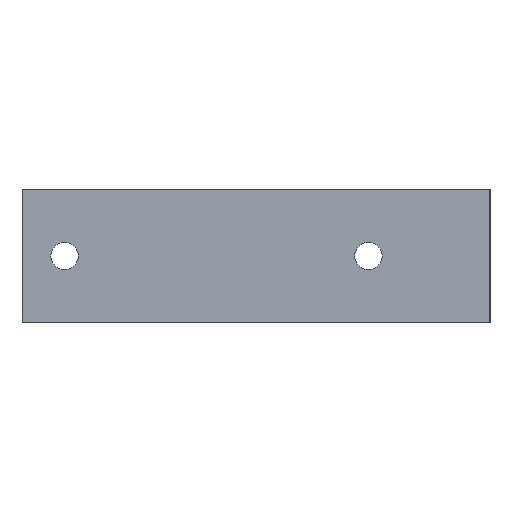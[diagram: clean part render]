
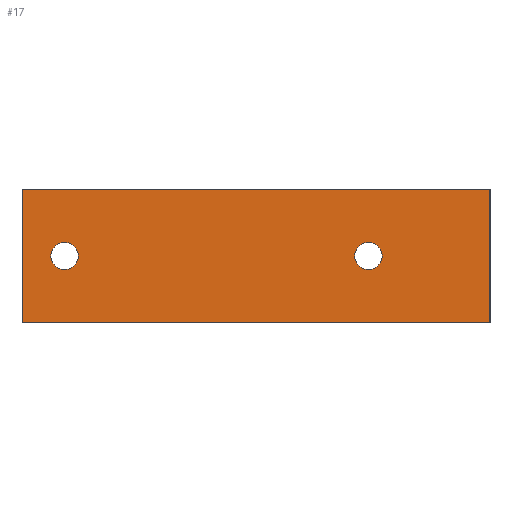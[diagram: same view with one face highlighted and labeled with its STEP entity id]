
A CAD part, left-side view. The second image highlights one B-rep face of the part: STEP entity #17.
In plain terms, the highlighted planar face has unit normal (-1, 0, 0).
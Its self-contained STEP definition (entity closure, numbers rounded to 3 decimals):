
#17 = ADVANCED_FACE('',(#18,#137,#172),#32,.F.);
#18 = FACE_BOUND('',#19,.F.);
#19 = EDGE_LOOP('',(#20,#55,#83,#111));
#20 = ORIENTED_EDGE('',*,*,#21,.F.);
#21 = EDGE_CURVE('',#22,#24,#26,.T.);
#22 = VERTEX_POINT('',#23);
#23 = CARTESIAN_POINT('',(-45.,-45.,-55.));
#24 = VERTEX_POINT('',#25);
#25 = CARTESIAN_POINT('',(-45.,-45.,-33.));
#26 = SURFACE_CURVE('',#27,(#31,#43),.PCURVE_S1.);
#27 = LINE('',#28,#29);
#28 = CARTESIAN_POINT('',(-45.,-45.,-55.));
#29 = VECTOR('',#30,1.);
#30 = DIRECTION('',(0.,0.,1.));
#31 = PCURVE('',#32,#37);
#32 = PLANE('',#33);
#33 = AXIS2_PLACEMENT_3D('',#34,#35,#36);
#34 = CARTESIAN_POINT('',(-45.,-45.,-55.));
#35 = DIRECTION('',(1.,0.,0.));
#36 = DIRECTION('',(0.,0.,1.));
#37 = DEFINITIONAL_REPRESENTATION('',(#38),#42);
#38 = LINE('',#39,#40);
#39 = CARTESIAN_POINT('',(0.,0.));
#40 = VECTOR('',#41,1.);
#41 = DIRECTION('',(1.,0.));
#42 = ( GEOMETRIC_REPRESENTATION_CONTEXT(2) 
PARAMETRIC_REPRESENTATION_CONTEXT() REPRESENTATION_CONTEXT('2D SPACE',''
  ) );
#43 = PCURVE('',#44,#49);
#44 = PLANE('',#45);
#45 = AXIS2_PLACEMENT_3D('',#46,#47,#48);
#46 = CARTESIAN_POINT('',(-45.,-45.,-55.));
#47 = DIRECTION('',(0.,1.,0.));
#48 = DIRECTION('',(0.,0.,1.));
#49 = DEFINITIONAL_REPRESENTATION('',(#50),#54);
#50 = LINE('',#51,#52);
#51 = CARTESIAN_POINT('',(0.,0.));
#52 = VECTOR('',#53,1.);
#53 = DIRECTION('',(1.,0.));
#54 = ( GEOMETRIC_REPRESENTATION_CONTEXT(2) 
PARAMETRIC_REPRESENTATION_CONTEXT() REPRESENTATION_CONTEXT('2D SPACE',''
  ) );
#55 = ORIENTED_EDGE('',*,*,#56,.T.);
#56 = EDGE_CURVE('',#22,#57,#59,.T.);
#57 = VERTEX_POINT('',#58);
#58 = CARTESIAN_POINT('',(-45.,32.,-55.));
#59 = SURFACE_CURVE('',#60,(#64,#71),.PCURVE_S1.);
#60 = LINE('',#61,#62);
#61 = CARTESIAN_POINT('',(-45.,-45.,-55.));
#62 = VECTOR('',#63,1.);
#63 = DIRECTION('',(0.,1.,0.));
#64 = PCURVE('',#32,#65);
#65 = DEFINITIONAL_REPRESENTATION('',(#66),#70);
#66 = LINE('',#67,#68);
#67 = CARTESIAN_POINT('',(0.,0.));
#68 = VECTOR('',#69,1.);
#69 = DIRECTION('',(0.,-1.));
#70 = ( GEOMETRIC_REPRESENTATION_CONTEXT(2) 
PARAMETRIC_REPRESENTATION_CONTEXT() REPRESENTATION_CONTEXT('2D SPACE',''
  ) );
#71 = PCURVE('',#72,#77);
#72 = PLANE('',#73);
#73 = AXIS2_PLACEMENT_3D('',#74,#75,#76);
#74 = CARTESIAN_POINT('',(-45.,-45.,-55.));
#75 = DIRECTION('',(0.,0.,1.));
#76 = DIRECTION('',(1.,0.,0.));
#77 = DEFINITIONAL_REPRESENTATION('',(#78),#82);
#78 = LINE('',#79,#80);
#79 = CARTESIAN_POINT('',(0.,0.));
#80 = VECTOR('',#81,1.);
#81 = DIRECTION('',(0.,1.));
#82 = ( GEOMETRIC_REPRESENTATION_CONTEXT(2) 
PARAMETRIC_REPRESENTATION_CONTEXT() REPRESENTATION_CONTEXT('2D SPACE',''
  ) );
#83 = ORIENTED_EDGE('',*,*,#84,.T.);
#84 = EDGE_CURVE('',#57,#85,#87,.T.);
#85 = VERTEX_POINT('',#86);
#86 = CARTESIAN_POINT('',(-45.,32.,-33.));
#87 = SURFACE_CURVE('',#88,(#92,#99),.PCURVE_S1.);
#88 = LINE('',#89,#90);
#89 = CARTESIAN_POINT('',(-45.,32.,-55.));
#90 = VECTOR('',#91,1.);
#91 = DIRECTION('',(0.,0.,1.));
#92 = PCURVE('',#32,#93);
#93 = DEFINITIONAL_REPRESENTATION('',(#94),#98);
#94 = LINE('',#95,#96);
#95 = CARTESIAN_POINT('',(0.,-77.));
#96 = VECTOR('',#97,1.);
#97 = DIRECTION('',(1.,0.));
#98 = ( GEOMETRIC_REPRESENTATION_CONTEXT(2) 
PARAMETRIC_REPRESENTATION_CONTEXT() REPRESENTATION_CONTEXT('2D SPACE',''
  ) );
#99 = PCURVE('',#100,#105);
#100 = PLANE('',#101);
#101 = AXIS2_PLACEMENT_3D('',#102,#103,#104);
#102 = CARTESIAN_POINT('',(-45.,32.,-55.));
#103 = DIRECTION('',(0.,1.,0.));
#104 = DIRECTION('',(0.,0.,1.));
#105 = DEFINITIONAL_REPRESENTATION('',(#106),#110);
#106 = LINE('',#107,#108);
#107 = CARTESIAN_POINT('',(0.,0.));
#108 = VECTOR('',#109,1.);
#109 = DIRECTION('',(1.,0.));
#110 = ( GEOMETRIC_REPRESENTATION_CONTEXT(2) 
PARAMETRIC_REPRESENTATION_CONTEXT() REPRESENTATION_CONTEXT('2D SPACE',''
  ) );
#111 = ORIENTED_EDGE('',*,*,#112,.F.);
#112 = EDGE_CURVE('',#24,#85,#113,.T.);
#113 = SURFACE_CURVE('',#114,(#118,#125),.PCURVE_S1.);
#114 = LINE('',#115,#116);
#115 = CARTESIAN_POINT('',(-45.,-45.,-33.));
#116 = VECTOR('',#117,1.);
#117 = DIRECTION('',(0.,1.,0.));
#118 = PCURVE('',#32,#119);
#119 = DEFINITIONAL_REPRESENTATION('',(#120),#124);
#120 = LINE('',#121,#122);
#121 = CARTESIAN_POINT('',(22.,0.));
#122 = VECTOR('',#123,1.);
#123 = DIRECTION('',(0.,-1.));
#124 = ( GEOMETRIC_REPRESENTATION_CONTEXT(2) 
PARAMETRIC_REPRESENTATION_CONTEXT() REPRESENTATION_CONTEXT('2D SPACE',''
  ) );
#125 = PCURVE('',#126,#131);
#126 = PLANE('',#127);
#127 = AXIS2_PLACEMENT_3D('',#128,#129,#130);
#128 = CARTESIAN_POINT('',(-45.,-45.,-33.));
#129 = DIRECTION('',(0.,0.,1.));
#130 = DIRECTION('',(1.,0.,0.));
#131 = DEFINITIONAL_REPRESENTATION('',(#132),#136);
#132 = LINE('',#133,#134);
#133 = CARTESIAN_POINT('',(0.,0.));
#134 = VECTOR('',#135,1.);
#135 = DIRECTION('',(0.,1.));
#136 = ( GEOMETRIC_REPRESENTATION_CONTEXT(2) 
PARAMETRIC_REPRESENTATION_CONTEXT() REPRESENTATION_CONTEXT('2D SPACE',''
  ) );
#137 = FACE_BOUND('',#138,.F.);
#138 = EDGE_LOOP('',(#139));
#139 = ORIENTED_EDGE('',*,*,#140,.T.);
#140 = EDGE_CURVE('',#141,#141,#143,.T.);
#141 = VERTEX_POINT('',#142);
#142 = CARTESIAN_POINT('',(-45.,27.25,-44.));
#143 = SURFACE_CURVE('',#144,(#149,#160),.PCURVE_S1.);
#144 = CIRCLE('',#145,2.25);
#145 = AXIS2_PLACEMENT_3D('',#146,#147,#148);
#146 = CARTESIAN_POINT('',(-45.,25.,-44.));
#147 = DIRECTION('',(-1.,0.,0.));
#148 = DIRECTION('',(0.,1.,0.));
#149 = PCURVE('',#32,#150);
#150 = DEFINITIONAL_REPRESENTATION('',(#151),#159);
#151 = ( BOUNDED_CURVE() B_SPLINE_CURVE(2,(#152,#153,#154,#155,#156,#157
,#158),.UNSPECIFIED.,.T.,.F.) B_SPLINE_CURVE_WITH_KNOTS((1,2,2,2,2,1),(
    -2.094,0.,2.094,4.189,6.283,
8.378),.UNSPECIFIED.) CURVE() GEOMETRIC_REPRESENTATION_ITEM() 
RATIONAL_B_SPLINE_CURVE((1.,0.5,1.,0.5,1.,0.5,1.)) REPRESENTATION_ITEM(
  '') );
#152 = CARTESIAN_POINT('',(11.,-72.25));
#153 = CARTESIAN_POINT('',(7.103,-72.25));
#154 = CARTESIAN_POINT('',(9.051,-68.875));
#155 = CARTESIAN_POINT('',(11.,-65.5));
#156 = CARTESIAN_POINT('',(12.949,-68.875));
#157 = CARTESIAN_POINT('',(14.897,-72.25));
#158 = CARTESIAN_POINT('',(11.,-72.25));
#159 = ( GEOMETRIC_REPRESENTATION_CONTEXT(2) 
PARAMETRIC_REPRESENTATION_CONTEXT() REPRESENTATION_CONTEXT('2D SPACE',''
  ) );
#160 = PCURVE('',#161,#166);
#161 = CYLINDRICAL_SURFACE('',#162,2.25);
#162 = AXIS2_PLACEMENT_3D('',#163,#164,#165);
#163 = CARTESIAN_POINT('',(-46.,25.,-44.));
#164 = DIRECTION('',(-1.,-0.,-0.));
#165 = DIRECTION('',(0.,1.,0.));
#166 = DEFINITIONAL_REPRESENTATION('',(#167),#171);
#167 = LINE('',#168,#169);
#168 = CARTESIAN_POINT('',(-6.283,-1.));
#169 = VECTOR('',#170,1.);
#170 = DIRECTION('',(1.,-0.));
#171 = ( GEOMETRIC_REPRESENTATION_CONTEXT(2) 
PARAMETRIC_REPRESENTATION_CONTEXT() REPRESENTATION_CONTEXT('2D SPACE',''
  ) );
#172 = FACE_BOUND('',#173,.F.);
#173 = EDGE_LOOP('',(#174));
#174 = ORIENTED_EDGE('',*,*,#175,.T.);
#175 = EDGE_CURVE('',#176,#176,#178,.T.);
#176 = VERTEX_POINT('',#177);
#177 = CARTESIAN_POINT('',(-45.,-22.75,-44.));
#178 = SURFACE_CURVE('',#179,(#184,#195),.PCURVE_S1.);
#179 = CIRCLE('',#180,2.25);
#180 = AXIS2_PLACEMENT_3D('',#181,#182,#183);
#181 = CARTESIAN_POINT('',(-45.,-25.,-44.));
#182 = DIRECTION('',(-1.,0.,0.));
#183 = DIRECTION('',(0.,1.,0.));
#184 = PCURVE('',#32,#185);
#185 = DEFINITIONAL_REPRESENTATION('',(#186),#194);
#186 = ( BOUNDED_CURVE() B_SPLINE_CURVE(2,(#187,#188,#189,#190,#191,#192
,#193),.UNSPECIFIED.,.T.,.F.) B_SPLINE_CURVE_WITH_KNOTS((1,2,2,2,2,1),(
    -2.094,0.,2.094,4.189,6.283,
8.378),.UNSPECIFIED.) CURVE() GEOMETRIC_REPRESENTATION_ITEM() 
RATIONAL_B_SPLINE_CURVE((1.,0.5,1.,0.5,1.,0.5,1.)) REPRESENTATION_ITEM(
  '') );
#187 = CARTESIAN_POINT('',(11.,-22.25));
#188 = CARTESIAN_POINT('',(7.103,-22.25));
#189 = CARTESIAN_POINT('',(9.051,-18.875));
#190 = CARTESIAN_POINT('',(11.,-15.5));
#191 = CARTESIAN_POINT('',(12.949,-18.875));
#192 = CARTESIAN_POINT('',(14.897,-22.25));
#193 = CARTESIAN_POINT('',(11.,-22.25));
#194 = ( GEOMETRIC_REPRESENTATION_CONTEXT(2) 
PARAMETRIC_REPRESENTATION_CONTEXT() REPRESENTATION_CONTEXT('2D SPACE',''
  ) );
#195 = PCURVE('',#196,#201);
#196 = CYLINDRICAL_SURFACE('',#197,2.25);
#197 = AXIS2_PLACEMENT_3D('',#198,#199,#200);
#198 = CARTESIAN_POINT('',(-46.,-25.,-44.));
#199 = DIRECTION('',(-1.,-0.,-0.));
#200 = DIRECTION('',(0.,1.,0.));
#201 = DEFINITIONAL_REPRESENTATION('',(#202),#206);
#202 = LINE('',#203,#204);
#203 = CARTESIAN_POINT('',(-6.283,-1.));
#204 = VECTOR('',#205,1.);
#205 = DIRECTION('',(1.,-0.));
#206 = ( GEOMETRIC_REPRESENTATION_CONTEXT(2) 
PARAMETRIC_REPRESENTATION_CONTEXT() REPRESENTATION_CONTEXT('2D SPACE',''
  ) );
